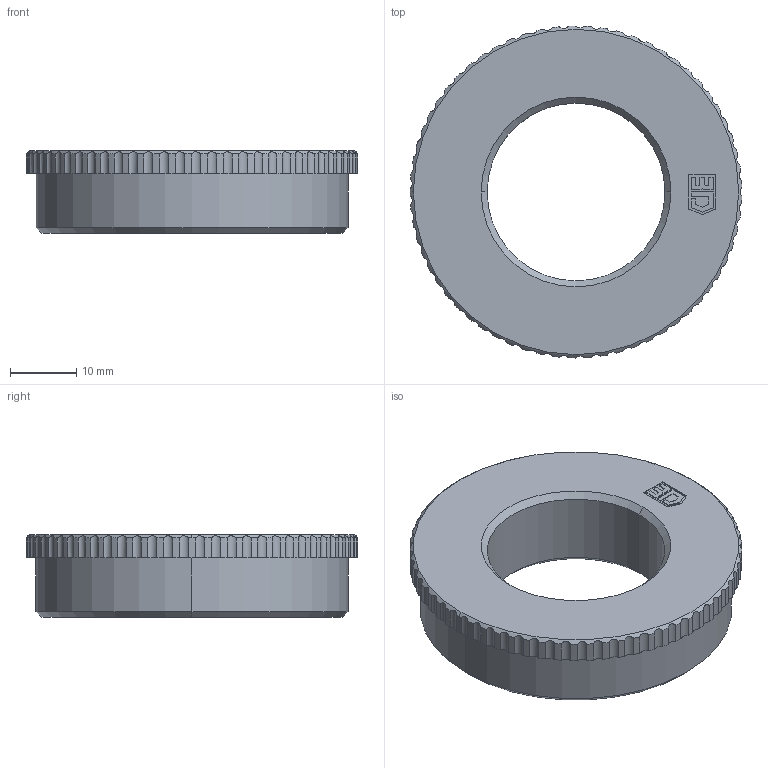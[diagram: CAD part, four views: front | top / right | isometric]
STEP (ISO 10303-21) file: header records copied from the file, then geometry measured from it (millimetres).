
FILE_DESCRIPTION (( 'STEP AP203' ), '1' );
FILE_NAME ('3621.STEP', '2005-11-22T09:20:19', ( ' ' ), ( '' ), 'SwSTEP 2.0', 'SolidWorks 2005278', '' );
FILE_SCHEMA (( 'CONFIG_CONTROL_DESIGN' ));
Length unit declared in the file: millimetre
Products named in the file (1): 3621
Bounding box: 49.99 x 50 x 12.5 mm (x, y, z)
Volume: 15237.6 mm3; surface area: 5528.7 mm2
Topology: 1 solids, 1 shells, 182 faces, 522 edges, 346 vertices
Faces by surface type: cylinder 134, plane 40, cone 8
Entity records: 6565 total; most frequent: CARTESIAN_POINT 1637, ORIENTED_EDGE 1044, DIRECTION 1034, EDGE_CURVE 522, AXIS2_PLACEMENT_3D 395, VERTEX_POINT 346, VECTOR 244, LINE 244
